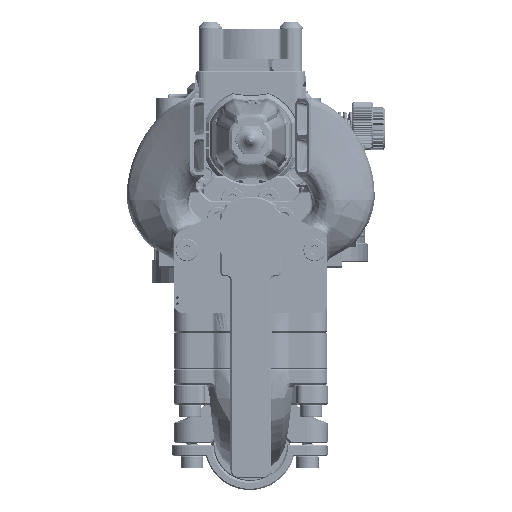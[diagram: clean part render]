
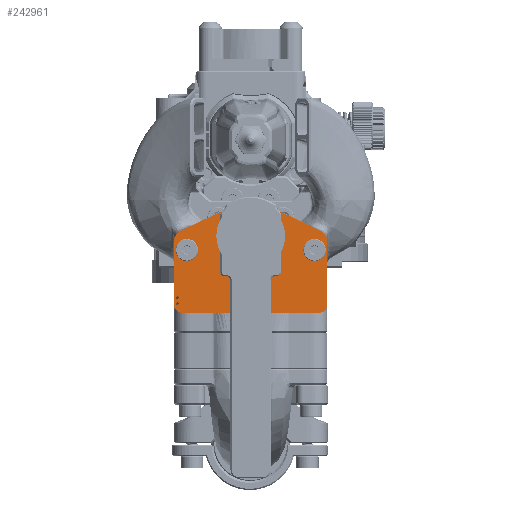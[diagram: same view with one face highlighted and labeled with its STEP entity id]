
A CAD part, front view. The second image highlights one B-rep face of the part: STEP entity #242961.
In plain terms, the highlighted planar face has unit normal (0, -1, 0) as drawn and (0, 0, -1) by its records, which use the part's own axes.
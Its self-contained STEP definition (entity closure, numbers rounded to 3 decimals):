
#18797=FACE_BOUND('',#52714,.T.);
#18798=FACE_BOUND('',#52715,.T.);
#18799=FACE_BOUND('',#52716,.T.);
#18800=FACE_BOUND('',#52717,.T.);
#18801=FACE_BOUND('',#52718,.T.);
#18802=FACE_BOUND('',#52719,.T.);
#18803=FACE_BOUND('',#52720,.T.);
#18804=FACE_BOUND('',#52721,.T.);
#25960=CIRCLE('',#262715,0.325);
#25962=CIRCLE('',#262718,1.7);
#25964=CIRCLE('',#262721,0.325);
#25966=CIRCLE('',#262724,0.45);
#25968=CIRCLE('',#262727,0.45);
#25970=CIRCLE('',#262730,1.7);
#25972=CIRCLE('',#262733,0.45);
#25974=CIRCLE('',#262736,0.45);
#25976=CIRCLE('',#262740,3.);
#25978=CIRCLE('',#262744,7.981);
#25980=CIRCLE('',#262748,7.981);
#25982=CIRCLE('',#262752,3.);
#25984=CIRCLE('',#262756,2.002);
#25986=CIRCLE('',#262760,2.001);
#38666=FACE_OUTER_BOUND('',#52713,.T.);
#52713=EDGE_LOOP('',(#218486,#218487,#218488,#218489,#218490,#218491,#218492,
#218493,#218494,#218495,#218496,#218497));
#52714=EDGE_LOOP('',(#218498));
#52715=EDGE_LOOP('',(#218499));
#52716=EDGE_LOOP('',(#218500));
#52717=EDGE_LOOP('',(#218501));
#52718=EDGE_LOOP('',(#218502));
#52719=EDGE_LOOP('',(#218503));
#52720=EDGE_LOOP('',(#218504));
#52721=EDGE_LOOP('',(#218505));
#70839=LINE('',#663764,#90381);
#70843=LINE('',#663776,#90385);
#70847=LINE('',#663788,#90389);
#70851=LINE('',#663800,#90393);
#70855=LINE('',#663812,#90397);
#70859=LINE('',#663824,#90401);
#90381=VECTOR('',#316493,1000.);
#90385=VECTOR('',#316505,1000.);
#90389=VECTOR('',#316517,1000.);
#90393=VECTOR('',#316529,1000.);
#90397=VECTOR('',#316541,1000.);
#90401=VECTOR('',#316553,1000.);
#114000=VERTEX_POINT('',#663711);
#114002=VERTEX_POINT('',#663717);
#114004=VERTEX_POINT('',#663723);
#114006=VERTEX_POINT('',#663729);
#114008=VERTEX_POINT('',#663735);
#114010=VERTEX_POINT('',#663741);
#114012=VERTEX_POINT('',#663747);
#114014=VERTEX_POINT('',#663753);
#114015=VERTEX_POINT('',#663757);
#114018=VERTEX_POINT('',#663762);
#114020=VERTEX_POINT('',#663768);
#114022=VERTEX_POINT('',#663774);
#114024=VERTEX_POINT('',#663780);
#114026=VERTEX_POINT('',#663786);
#114028=VERTEX_POINT('',#663792);
#114030=VERTEX_POINT('',#663798);
#114032=VERTEX_POINT('',#663804);
#114034=VERTEX_POINT('',#663810);
#114036=VERTEX_POINT('',#663816);
#114038=VERTEX_POINT('',#663822);
#149112=EDGE_CURVE('',#114000,#114000,#25960,.T.);
#149115=EDGE_CURVE('',#114002,#114002,#25962,.T.);
#149118=EDGE_CURVE('',#114004,#114004,#25964,.T.);
#149121=EDGE_CURVE('',#114006,#114006,#25966,.T.);
#149124=EDGE_CURVE('',#114008,#114008,#25968,.T.);
#149127=EDGE_CURVE('',#114010,#114010,#25970,.T.);
#149130=EDGE_CURVE('',#114012,#114012,#25972,.T.);
#149133=EDGE_CURVE('',#114014,#114014,#25974,.T.);
#149137=EDGE_CURVE('',#114015,#114018,#70839,.T.);
#149140=EDGE_CURVE('',#114018,#114020,#25976,.T.);
#149143=EDGE_CURVE('',#114020,#114022,#70843,.T.);
#149146=EDGE_CURVE('',#114022,#114024,#25978,.T.);
#149149=EDGE_CURVE('',#114024,#114026,#70847,.T.);
#149152=EDGE_CURVE('',#114026,#114028,#25980,.T.);
#149155=EDGE_CURVE('',#114028,#114030,#70851,.T.);
#149158=EDGE_CURVE('',#114030,#114032,#25982,.T.);
#149161=EDGE_CURVE('',#114032,#114034,#70855,.T.);
#149164=EDGE_CURVE('',#114034,#114036,#25984,.T.);
#149167=EDGE_CURVE('',#114036,#114038,#70859,.T.);
#149169=EDGE_CURVE('',#114038,#114015,#25986,.T.);
#218486=ORIENTED_EDGE('',*,*,#149137,.T.);
#218487=ORIENTED_EDGE('',*,*,#149140,.T.);
#218488=ORIENTED_EDGE('',*,*,#149143,.T.);
#218489=ORIENTED_EDGE('',*,*,#149146,.T.);
#218490=ORIENTED_EDGE('',*,*,#149149,.T.);
#218491=ORIENTED_EDGE('',*,*,#149152,.T.);
#218492=ORIENTED_EDGE('',*,*,#149155,.T.);
#218493=ORIENTED_EDGE('',*,*,#149158,.T.);
#218494=ORIENTED_EDGE('',*,*,#149161,.T.);
#218495=ORIENTED_EDGE('',*,*,#149164,.T.);
#218496=ORIENTED_EDGE('',*,*,#149167,.T.);
#218497=ORIENTED_EDGE('',*,*,#149169,.T.);
#218498=ORIENTED_EDGE('',*,*,#149133,.T.);
#218499=ORIENTED_EDGE('',*,*,#149130,.T.);
#218500=ORIENTED_EDGE('',*,*,#149127,.T.);
#218501=ORIENTED_EDGE('',*,*,#149124,.T.);
#218502=ORIENTED_EDGE('',*,*,#149121,.T.);
#218503=ORIENTED_EDGE('',*,*,#149118,.T.);
#218504=ORIENTED_EDGE('',*,*,#149115,.T.);
#218505=ORIENTED_EDGE('',*,*,#149112,.T.);
#229676=PLANE('',#262761);
#242961=ADVANCED_FACE('',(#38666,#18797,#18798,#18799,#18800,#18801,#18802,
#18803,#18804),#229676,.T.);
#262715=AXIS2_PLACEMENT_3D('',#663713,#316437,#316438);
#262718=AXIS2_PLACEMENT_3D('',#663719,#316444,#316445);
#262721=AXIS2_PLACEMENT_3D('',#663725,#316451,#316452);
#262724=AXIS2_PLACEMENT_3D('',#663731,#316458,#316459);
#262727=AXIS2_PLACEMENT_3D('',#663737,#316465,#316466);
#262730=AXIS2_PLACEMENT_3D('',#663743,#316472,#316473);
#262733=AXIS2_PLACEMENT_3D('',#663749,#316479,#316480);
#262736=AXIS2_PLACEMENT_3D('',#663755,#316486,#316487);
#262740=AXIS2_PLACEMENT_3D('',#663770,#316499,#316500);
#262744=AXIS2_PLACEMENT_3D('',#663782,#316511,#316512);
#262748=AXIS2_PLACEMENT_3D('',#663794,#316523,#316524);
#262752=AXIS2_PLACEMENT_3D('',#663806,#316535,#316536);
#262756=AXIS2_PLACEMENT_3D('',#663818,#316547,#316548);
#262760=AXIS2_PLACEMENT_3D('',#663827,#316558,#316559);
#262761=AXIS2_PLACEMENT_3D('',#663828,#316560,#316561);
#316437=DIRECTION('center_axis',(0.,0.,1.));
#316438=DIRECTION('ref_axis',(1.,0.,0.));
#316444=DIRECTION('center_axis',(0.,0.,1.));
#316445=DIRECTION('ref_axis',(1.,0.,0.));
#316451=DIRECTION('center_axis',(0.,0.,1.));
#316452=DIRECTION('ref_axis',(1.,0.,0.));
#316458=DIRECTION('center_axis',(0.,0.,1.));
#316459=DIRECTION('ref_axis',(1.,0.,0.));
#316465=DIRECTION('center_axis',(0.,0.,1.));
#316466=DIRECTION('ref_axis',(1.,0.,0.));
#316472=DIRECTION('center_axis',(0.,0.,1.));
#316473=DIRECTION('ref_axis',(1.,0.,0.));
#316479=DIRECTION('center_axis',(0.,0.,1.));
#316480=DIRECTION('ref_axis',(1.,0.,0.));
#316486=DIRECTION('center_axis',(0.,0.,1.));
#316487=DIRECTION('ref_axis',(1.,0.,0.));
#316493=DIRECTION('',(0.,1.,0.));
#316499=DIRECTION('center_axis',(0.,0.,-1.));
#316500=DIRECTION('ref_axis',(-1.,0.,0.));
#316505=DIRECTION('',(0.906,0.424,0.));
#316511=DIRECTION('center_axis',(0.,0.,-1.));
#316512=DIRECTION('ref_axis',(-0.424,0.906,0.));
#316517=DIRECTION('',(1.,0.,0.));
#316523=DIRECTION('center_axis',(0.,0.,-1.));
#316524=DIRECTION('ref_axis',(-0.001,1.,0.));
#316529=DIRECTION('',(0.906,-0.424,0.));
#316535=DIRECTION('center_axis',(0.,0.,-1.));
#316536=DIRECTION('ref_axis',(0.424,0.906,0.));
#316541=DIRECTION('',(0.,-1.,0.));
#316547=DIRECTION('center_axis',(0.,0.,-1.));
#316548=DIRECTION('ref_axis',(1.,-0.001,0.));
#316553=DIRECTION('',(-1.,0.,0.));
#316558=DIRECTION('center_axis',(0.,0.,-1.));
#316559=DIRECTION('ref_axis',(-0.001,-1.,0.));
#316560=DIRECTION('center_axis',(0.,0.,-1.));
#316561=DIRECTION('ref_axis',(-1.,0.,0.));
#663711=CARTESIAN_POINT('',(17.812,-15.31,-1.611));
#663713=CARTESIAN_POINT('Origin',(18.137,-15.31,-1.611));
#663717=CARTESIAN_POINT('',(14.1,-3.5,-1.611));
#663719=CARTESIAN_POINT('Origin',(15.8,-3.5,-1.611));
#663723=CARTESIAN_POINT('',(17.812,-16.81,-1.611));
#663725=CARTESIAN_POINT('Origin',(18.137,-16.81,-1.611));
#663729=CARTESIAN_POINT('',(2.55,-16.,-1.611));
#663731=CARTESIAN_POINT('Origin',(3.,-16.,-1.611));
#663735=CARTESIAN_POINT('',(-3.45,-16.,-1.611));
#663737=CARTESIAN_POINT('Origin',(-3.,-16.,-1.611));
#663741=CARTESIAN_POINT('',(-17.5,-3.5,-1.611));
#663743=CARTESIAN_POINT('Origin',(-15.8,-3.5,-1.611));
#663747=CARTESIAN_POINT('',(0.55,-16.,-1.611));
#663749=CARTESIAN_POINT('Origin',(1.,-16.,-1.611));
#663753=CARTESIAN_POINT('',(-1.45,-16.,-1.611));
#663755=CARTESIAN_POINT('Origin',(-1.,-16.,-1.611));
#663757=CARTESIAN_POINT('',(-19.,-17.,-1.611));
#663762=CARTESIAN_POINT('',(-19.,-1.393,-1.611));
#663764=CARTESIAN_POINT('',(-19.,-17.,-1.611));
#663768=CARTESIAN_POINT('',(-17.271,1.325,-1.611));
#663770=CARTESIAN_POINT('Origin',(-16.,-1.393,-1.611));
#663774=CARTESIAN_POINT('',(-3.542,7.747,-1.611));
#663776=CARTESIAN_POINT('',(-17.271,1.325,-1.611));
#663780=CARTESIAN_POINT('',(-0.152,8.5,-1.611));
#663782=CARTESIAN_POINT('Origin',(-0.158,0.519,-1.611));
#663786=CARTESIAN_POINT('',(0.152,8.5,-1.611));
#663788=CARTESIAN_POINT('',(-0.152,8.5,-1.611));
#663792=CARTESIAN_POINT('',(3.542,7.747,-1.611));
#663794=CARTESIAN_POINT('Origin',(0.158,0.519,-1.611));
#663798=CARTESIAN_POINT('',(17.271,1.325,-1.611));
#663800=CARTESIAN_POINT('',(3.542,7.747,-1.611));
#663804=CARTESIAN_POINT('',(19.,-1.393,-1.611));
#663806=CARTESIAN_POINT('Origin',(16.,-1.393,-1.611));
#663810=CARTESIAN_POINT('',(19.,-17.,-1.611));
#663812=CARTESIAN_POINT('',(19.,-1.393,-1.611));
#663816=CARTESIAN_POINT('',(17.001,-19.,-1.611));
#663818=CARTESIAN_POINT('Origin',(16.998,-16.998,-1.611));
#663822=CARTESIAN_POINT('',(-17.001,-18.999,-1.611));
#663824=CARTESIAN_POINT('',(17.001,-19.,-1.611));
#663827=CARTESIAN_POINT('Origin',(-16.999,-16.998,-1.611));
#663828=CARTESIAN_POINT('Origin',(0.,-7.322,
-1.611));
